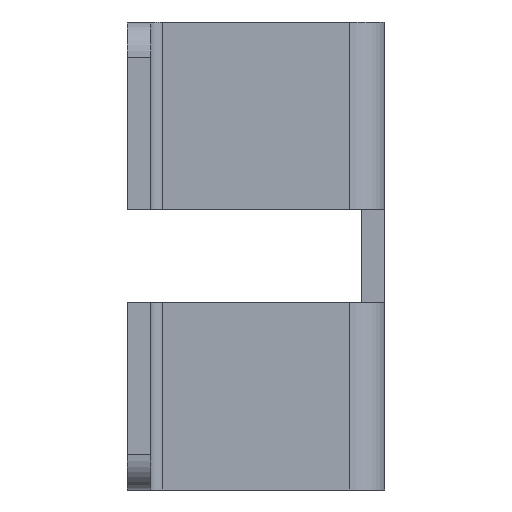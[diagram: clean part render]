
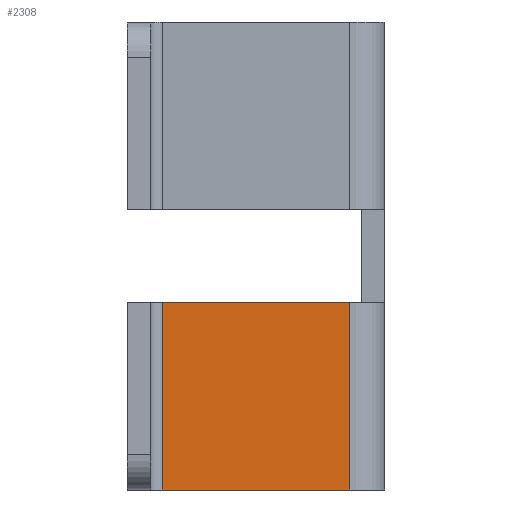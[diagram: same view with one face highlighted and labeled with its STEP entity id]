
A CAD part, left-side view. The second image highlights one B-rep face of the part: STEP entity #2308.
In plain terms, the highlighted planar face has unit normal (-1, 0, 0).
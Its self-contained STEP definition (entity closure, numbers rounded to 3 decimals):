
#40 = CARTESIAN_POINT ( 'NONE',  ( -62.5, 19., 40. ) ) ;
#58 = CARTESIAN_POINT ( 'NONE',  ( -62.5, 0., 0. ) ) ;
#169 = EDGE_LOOP ( 'NONE', ( #2197, #410, #2279, #2137 ) ) ;
#259 = CARTESIAN_POINT ( 'NONE',  ( -62.5, 0., 16. ) ) ;
#267 = DIRECTION ( 'NONE',  ( 0., 0., -1. ) ) ;
#299 = EDGE_CURVE ( 'NONE', #1381, #903, #478, .T. ) ;
#356 = FACE_OUTER_BOUND ( 'NONE', #169, .T. ) ;
#410 = ORIENTED_EDGE ( 'NONE', *, *, #858, .T. ) ;
#473 = DIRECTION ( 'NONE',  ( 0., 0., -1. ) ) ;
#478 = LINE ( 'NONE', #40, #653 ) ;
#485 = CARTESIAN_POINT ( 'NONE',  ( -62.5, 19., 16. ) ) ;
#493 = DIRECTION ( 'NONE',  ( 0., 1., 0. ) ) ;
#498 = CARTESIAN_POINT ( 'NONE',  ( -62.5, 3., 40. ) ) ;
#653 = VECTOR ( 'NONE', #267, 1000. ) ;
#700 = CARTESIAN_POINT ( 'NONE',  ( -62.5, 19., 0. ) ) ;
#846 = VECTOR ( 'NONE', #1172, 1000. ) ;
#858 = EDGE_CURVE ( 'NONE', #2096, #1381, #909, .T. ) ;
#903 = VERTEX_POINT ( 'NONE', #700 ) ;
#909 = LINE ( 'NONE', #259, #846 ) ;
#930 = VECTOR ( 'NONE', #493, 1000. ) ;
#1146 = CARTESIAN_POINT ( 'NONE',  ( -62.5, 3., 16. ) ) ;
#1172 = DIRECTION ( 'NONE',  ( 0., 1., 0. ) ) ;
#1239 = PLANE ( 'NONE',  #2130 ) ;
#1250 = VERTEX_POINT ( 'NONE', #2807 ) ;
#1348 = DIRECTION ( 'NONE',  ( -1., 0., 0. ) ) ;
#1381 = VERTEX_POINT ( 'NONE', #485 ) ;
#1392 = LINE ( 'NONE', #498, #2605 ) ;
#1644 = EDGE_CURVE ( 'NONE', #1250, #903, #2707, .T. ) ;
#2096 = VERTEX_POINT ( 'NONE', #1146 ) ;
#2130 = AXIS2_PLACEMENT_3D ( 'NONE', #2134, #1348, #2407 ) ;
#2134 = CARTESIAN_POINT ( 'NONE',  ( -62.5, 0., 40. ) ) ;
#2137 = ORIENTED_EDGE ( 'NONE', *, *, #1644, .F. ) ;
#2197 = ORIENTED_EDGE ( 'NONE', *, *, #2432, .F. ) ;
#2279 = ORIENTED_EDGE ( 'NONE', *, *, #299, .T. ) ;
#2308 = ADVANCED_FACE ( 'NONE', ( #356 ), #1239, .T. ) ;
#2407 = DIRECTION ( 'NONE',  ( 0., 0., 1. ) ) ;
#2432 = EDGE_CURVE ( 'NONE', #2096, #1250, #1392, .T. ) ;
#2605 = VECTOR ( 'NONE', #473, 1000. ) ;
#2707 = LINE ( 'NONE', #58, #930 ) ;
#2807 = CARTESIAN_POINT ( 'NONE',  ( -62.5, 3., 0. ) ) ;
